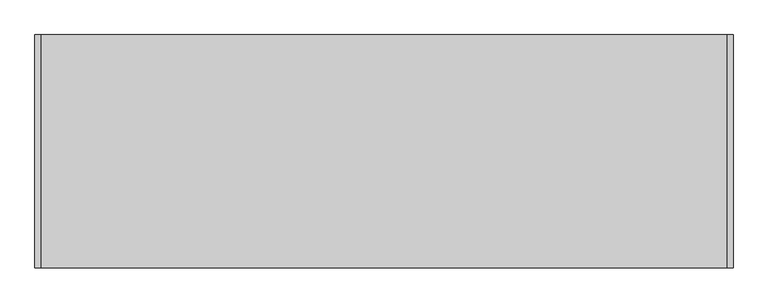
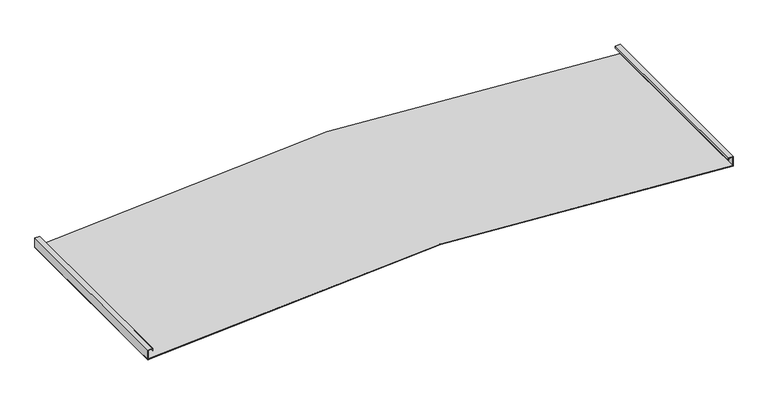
"""IFC4 building model written with IfcOpenShell, lengths in millimetres: proxy geometry, durlum_S7_DOMUS_panel : durlum_S7_DOMUS_panel."""

from ifc_helpers import new_model, si_unit, point, frame, frame_2d, origin, place, context, project, spatial, polyline, circle_curve, trimmed, segment, composite_curve, outline, extrude, source, transform, mapped, element, save


def generic_models_648c235f(model_context):
    return source(origin(), model_context, "Body", "SweptSolid", [
        extrude(outline(composite_curve([segment(trimmed(circle_curve(frame_2d((-6660.1333333, 0.0)), 6721.1333333), [point((1.1434425, -895.0))], [point((1.1434425, 895.0))], True, "CARTESIAN"), True, "CONTINUOUS"), segment(polyline([(1.1434425, 895.0), (2.1524269, 895.0)]), True, "CONTINUOUS"), segment(trimmed(circle_curve(frame_2d((-6660.1333333, 0.0)), 6722.1333333), [point((2.1524269, 895.0))], [point((2.1524269, -895.0))], False, "CARTESIAN"), True, "CONTINUOUS"), segment(polyline([(2.1524269, -895.0), (1.1434425, -895.0)]), True, "CONTINUOUS")], self_intersect=False)), frame((0.0, -299.75, 0.0), z_axis=(0.0, 1.0, 0.0), x_axis=(0.0, 0.0, 1.0)), (0.0, 0.0, 1.0), 599.5),
        extrude(outline(polyline([(31.0, -896.0), (0.0, -896.0), (0.0, -895.0), (30.0, -895.0), (30.0, -882.0), (24.5, -882.0), (24.5, -881.0), (31.0, -881.0), (31.0, -896.0)])), frame((0.0, -299.75, 0.0), z_axis=(0.0, 1.0, 0.0), x_axis=(0.0, 0.0, 1.0)), (0.0, 0.0, 1.0), 599.5),
        extrude(outline(polyline([(31.0, 896.0), (31.0, 881.0), (24.5, 881.0), (24.5, 882.0), (30.0, 882.0), (30.0, 895.0), (0.0, 895.0), (0.0, 896.0), (31.0, 896.0)])), frame((0.0, -299.75, 0.0), z_axis=(0.0, 1.0, 0.0), x_axis=(0.0, 0.0, 1.0)), (0.0, 0.0, 1.0), 599.5),
        extrude(outline(composite_curve([segment(polyline([(1.0090075, -896.0), (0.0, -896.0)]), True, "CONTINUOUS"), segment(trimmed(circle_curve(frame_2d((-6660.1333333, 0.0)), 6720.1333333), [point((0.0, -896.0))], [point((0.0, 896.0))], True, "CARTESIAN"), True, "CONTINUOUS"), segment(polyline([(0.0, 896.0), (1.0090075, 896.0)]), True, "CONTINUOUS"), segment(trimmed(circle_curve(frame_2d((-6660.1333333, 0.0)), 6721.1333333), [point((1.0090075, 896.0))], [point((1.0090075, -896.0))], False, "CARTESIAN"), True, "CONTINUOUS")], self_intersect=False)), frame((0.0, -299.75, 0.0), z_axis=(0.0, 1.0, 0.0), x_axis=(0.0, 0.0, 1.0)), (0.0, 0.0, 1.0), 599.5),
    ])


if __name__ == "__main__":
    model = new_model("IFC4")
    model_context = context("Model", 3, world=origin())
    ifc_project = project(units=[si_unit("LENGTHUNIT", "METRE", prefix="MILLI")], contexts=[model_context])
    site = spatial("IfcSite", under=ifc_project)
    building = spatial("IfcBuilding", under=site)
    placement = place(None, origin())
    generic_models_shape = generic_models_648c235f(model_context)
    element("IfcBuildingElementProxy", 1, Name="durlum_S7_DOMUS_panel : durlum_S7_DOMUS_panel", ObjectType="durlum_S7_DOMUS_panel : durlum_S7_DOMUS_panel", at=placement, inside=building, context=model_context, shape_type="MappedRepresentation", body=[
        mapped(generic_models_shape, transform((0.0, 0.0, 0.0), x_axis=(1.0, 0.0, 0.0), y_axis=(0.0, 1.0, 0.0), z_axis=(0.0, 0.0, 1.0))),
    ])
    save(model, "model.ifc")
